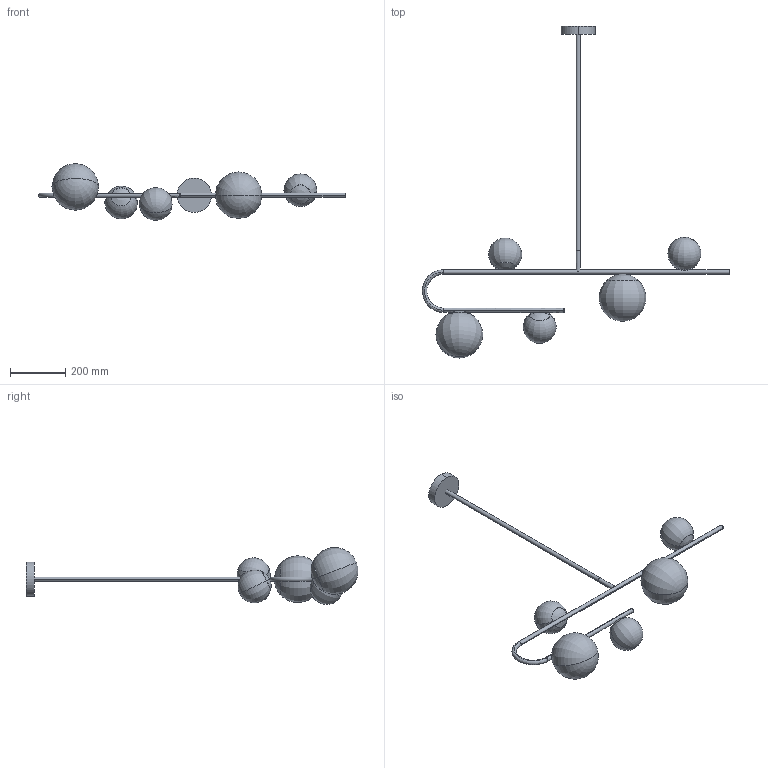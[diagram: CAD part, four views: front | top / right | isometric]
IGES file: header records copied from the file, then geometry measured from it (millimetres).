
Start section: SolidWorks IGES file using analytic representation for surfaces
Global section: file name: Y:\eforma\TECNICO\SOLIDWORKS\E-FORMA\09-LAMPADE\DECOR\02 parts\DECH1_Decor sospensione 124h.IGS; native system: SolidWorks 2022; preprocessor: SolidWorks 2022; author: eforma.tech; date: 240806.104518; units: millimetre
Bounding box: 1115.91 x 1206.18 x 207.21 mm (x, y, z)
Volume: 8779127.6 mm3; surface area: 558561.4 mm2
Topology: 14 solids, 14 shells, 64 faces, 158 edges, 82 vertices
Faces by surface type: revolution 50, plane 8, bspline 6
